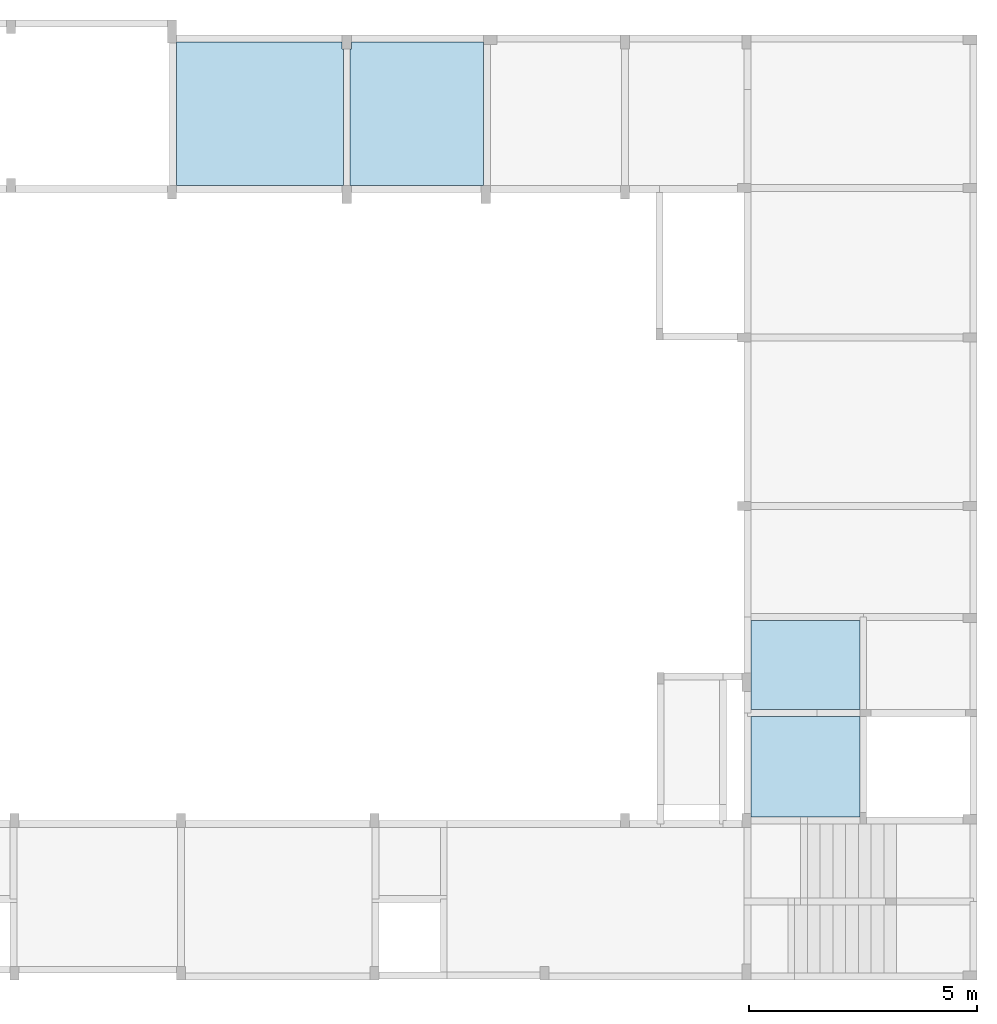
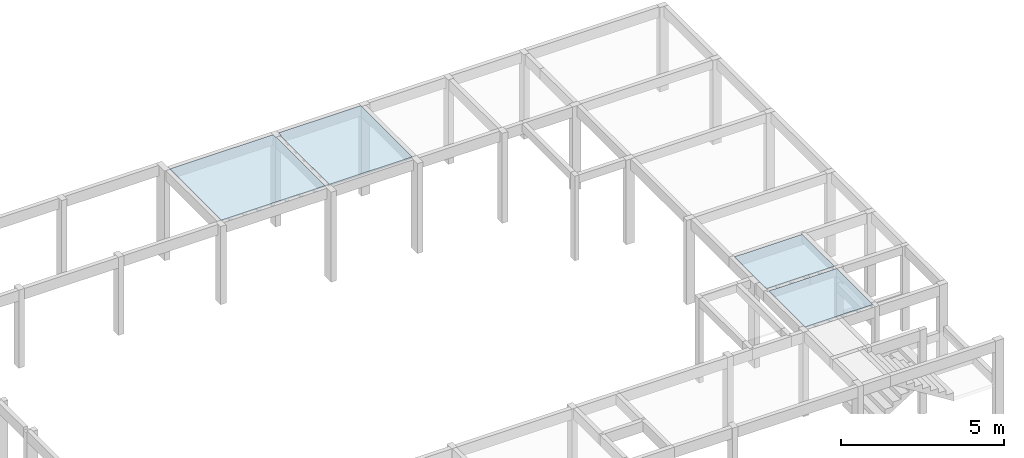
# One storey, part 7 of 11: 4 slabs.
"""IFC4 building model written with IfcOpenShell, lengths in centimetres."""

from ifc_helpers import new_model, si_unit, derived_unit, frame, origin_with_axes, place, context, project, spatial, polyline, outline, extrude, faceted_brep, material, element, save


model = new_model("IFC4")

# Units and contexts
model_context = context("Model", 3, precision=1e-05, world=origin_with_axes(), identifier="Body")
ifc_project = project(units=[si_unit("LENGTHUNIT", "METRE", prefix="CENTI"), si_unit("VOLUMEUNIT", "CUBIC_METRE"), si_unit("AREAUNIT", "SQUARE_METRE"), si_unit("POWERUNIT", "WATT"), si_unit("LUMINOUSFLUXUNIT", "LUMEN"), si_unit("ELECTRICCURRENTUNIT", "AMPERE"), si_unit("PRESSUREUNIT", "PASCAL", prefix="KILO"), si_unit("MASSUNIT", "GRAM", prefix="KILO"), si_unit("PLANEANGLEUNIT", "RADIAN"), derived_unit("VOLUMETRICFLOWRATEUNIT", [(si_unit("LENGTHUNIT", "METRE"), 3), (si_unit("TIMEUNIT", "SECOND"), -1)])], contexts=[model_context])

# Site, building, storey
site_placement = place(None, origin_with_axes())
site = spatial("IfcSite", under=ifc_project, at=site_placement)
building_placement = place(site_placement, frame((0.0, 0.0, -295.0)))
building = spatial("IfcBuilding", under=site, at=building_placement)
placement_1 = place(building_placement, origin_with_axes())
placement_2 = place(placement_1, frame((0.0, 0.0, 101.0), z_axis=(0.0, 0.0, 1.0), x_axis=(1.0, 0.0, 0.0)))
placement_3 = place(placement_2, frame((0.0, 0.0, 204.0), z_axis=(0.0, 0.0, 1.0), x_axis=(1.0, 0.0, 0.0)))
storey_placement = place(placement_3, frame((0.0, 0.0, 292.0), z_axis=(0.0, 0.0, 1.0), x_axis=(1.0, 0.0, 0.0)))
storey = spatial("IfcBuildingStorey", under=building, at=storey_placement, Name="PAVTO 01", CompositionType="ELEMENT", Elevation=302.0)

# Slabs
ifc_material = material(Name="Concreto")
slab_1_placement = place(storey_placement, frame((2442.0355, -5277.085, 0.0), z_axis=(0.0, 0.0, 1.0), x_axis=(1.0, 0.0, 0.0)))
element("IfcSlab", 1, at=slab_1_placement, inside=storey, material=ifc_material, Name="L101", PredefinedType="FLOOR", context=model_context, shape_type="SolidModel", body=[
    extrude(outline(polyline([(183.304, 142.534), (180.805, 142.534), (180.804, 157.534), (-183.304, 157.534), (-183.304, -157.534), (183.305, -157.534), (183.304, 142.534), (183.304, 142.534)])), frame((-0.0005, 0.0, -4.0), z_axis=(0.0, 0.0, 1.0), x_axis=(1.0, 0.0, 0.0)), (0.0, 0.0, 1.0), 4.0),
    faceted_brep([(-5.0005, -157.534, -12.0), (-5.0005, 157.534, -12.0), (4.9995, 157.534, -12.0), (4.9995, -157.534, -12.0), (4.9995, -157.534, -4.0), (4.9995, 157.534, -4.0), (-5.0005, 157.534, -4.0), (-5.0005, -157.534, -4.0)], [[[0, 1, 2, 3]], [[4, 5, 6, 7]], [[4, 3, 5]], [[3, 2, 5]], [[5, 2, 6]], [[2, 1, 6]], [[6, 1, 7]], [[1, 0, 7]], [[7, 0, 4]], [[0, 3, 4]]]),
    faceted_brep([(-6.5005, -157.534, -12.0), (-6.5005, 157.534, -12.0), (-5.0005, 157.534, -12.0), (-5.0005, -157.534, -12.0), (-5.0005, -157.534, -9.0), (-5.0005, 157.534, -9.0), (-6.5005, 157.534, -9.0), (-6.5005, -157.534, -9.0)], [[[0, 1, 2, 3]], [[4, 5, 6, 7]], [[4, 3, 5]], [[3, 2, 5]], [[5, 2, 6]], [[2, 1, 6]], [[6, 1, 7]], [[1, 0, 7]], [[7, 0, 4]], [[0, 3, 4]]]),
    faceted_brep([(4.9995, -157.534, -12.0), (4.9995, 157.534, -12.0), (6.4995, 157.534, -12.0), (6.4995, -157.534, -12.0), (6.4995, -157.534, -9.0), (6.4995, 157.534, -9.0), (4.9995, 157.534, -9.0), (4.9995, -157.534, -9.0)], [[[0, 1, 2, 3]], [[4, 5, 6, 7]], [[4, 3, 5]], [[3, 2, 5]], [[5, 2, 6]], [[2, 1, 6]], [[6, 1, 7]], [[1, 0, 7]], [[7, 0, 4]], [[0, 3, 4]]]),
    faceted_brep([(-55.0005, -157.534, -12.0), (-55.0005, 157.534, -12.0), (-45.0005, 157.534, -12.0), (-45.0005, -157.534, -12.0), (-45.0005, -157.534, -4.0), (-45.0005, 157.534, -4.0), (-55.0005, 157.534, -4.0), (-55.0005, -157.534, -4.0)], [[[0, 1, 2, 3]], [[4, 5, 6, 7]], [[4, 3, 5]], [[3, 2, 5]], [[5, 2, 6]], [[2, 1, 6]], [[6, 1, 7]], [[1, 0, 7]], [[7, 0, 4]], [[0, 3, 4]]]),
    faceted_brep([(-56.5005, -157.534, -12.0), (-56.5005, 157.534, -12.0), (-55.0005, 157.534, -12.0), (-55.0005, -157.534, -12.0), (-55.0005, -157.534, -9.0), (-55.0005, 157.534, -9.0), (-56.5005, 157.534, -9.0), (-56.5005, -157.534, -9.0)], [[[0, 1, 2, 3]], [[4, 5, 6, 7]], [[4, 3, 5]], [[3, 2, 5]], [[5, 2, 6]], [[2, 1, 6]], [[6, 1, 7]], [[1, 0, 7]], [[7, 0, 4]], [[0, 3, 4]]]),
    faceted_brep([(-45.0005, -157.534, -12.0), (-45.0005, 157.534, -12.0), (-43.5005, 157.534, -12.0), (-43.5005, -157.534, -12.0), (-43.5005, -157.534, -9.0), (-43.5005, 157.534, -9.0), (-45.0005, 157.534, -9.0), (-45.0005, -157.534, -9.0)], [[[0, 1, 2, 3]], [[4, 5, 6, 7]], [[4, 3, 5]], [[3, 2, 5]], [[5, 2, 6]], [[2, 1, 6]], [[6, 1, 7]], [[1, 0, 7]], [[7, 0, 4]], [[0, 3, 4]]]),
    faceted_brep([(-105.0005, -157.534, -12.0), (-105.0005, 157.534, -12.0), (-95.0005, 157.534, -12.0), (-95.0005, -157.534, -12.0), (-95.0005, -157.534, -4.0), (-95.0005, 157.534, -4.0), (-105.0005, 157.534, -4.0), (-105.0005, -157.534, -4.0)], [[[0, 1, 2, 3]], [[4, 5, 6, 7]], [[4, 3, 5]], [[3, 2, 5]], [[5, 2, 6]], [[2, 1, 6]], [[6, 1, 7]], [[1, 0, 7]], [[7, 0, 4]], [[0, 3, 4]]]),
    faceted_brep([(-106.5005, -157.534, -12.0), (-106.5005, 157.534, -12.0), (-105.0005, 157.534, -12.0), (-105.0005, -157.534, -12.0), (-105.0005, -157.534, -9.0), (-105.0005, 157.534, -9.0), (-106.5005, 157.534, -9.0), (-106.5005, -157.534, -9.0)], [[[0, 1, 2, 3]], [[4, 5, 6, 7]], [[4, 3, 5]], [[3, 2, 5]], [[5, 2, 6]], [[2, 1, 6]], [[6, 1, 7]], [[1, 0, 7]], [[7, 0, 4]], [[0, 3, 4]]]),
    faceted_brep([(-95.0005, -157.534, -12.0), (-95.0005, 157.534, -12.0), (-93.5005, 157.534, -12.0), (-93.5005, -157.534, -12.0), (-93.5005, -157.534, -9.0), (-93.5005, 157.534, -9.0), (-95.0005, 157.534, -9.0), (-95.0005, -157.534, -9.0)], [[[0, 1, 2, 3]], [[4, 5, 6, 7]], [[4, 3, 5]], [[3, 2, 5]], [[5, 2, 6]], [[2, 1, 6]], [[6, 1, 7]], [[1, 0, 7]], [[7, 0, 4]], [[0, 3, 4]]]),
    faceted_brep([(-155.0005, -157.534, -12.0), (-155.0005, 157.534, -12.0), (-145.0005, 157.534, -12.0), (-145.0005, -157.534, -12.0), (-145.0005, -157.534, -4.0), (-145.0005, 157.534, -4.0), (-155.0005, 157.534, -4.0), (-155.0005, -157.534, -4.0)], [[[0, 1, 2, 3]], [[4, 5, 6, 7]], [[4, 3, 5]], [[3, 2, 5]], [[5, 2, 6]], [[2, 1, 6]], [[6, 1, 7]], [[1, 0, 7]], [[7, 0, 4]], [[0, 3, 4]]]),
    faceted_brep([(-156.5005, -157.534, -12.0), (-156.5005, 157.534, -12.0), (-155.0005, 157.534, -12.0), (-155.0005, -157.534, -12.0), (-155.0005, -157.534, -9.0), (-155.0005, 157.534, -9.0), (-156.5005, 157.534, -9.0), (-156.5005, -157.534, -9.0)], [[[0, 1, 2, 3]], [[4, 5, 6, 7]], [[4, 3, 5]], [[3, 2, 5]], [[5, 2, 6]], [[2, 1, 6]], [[6, 1, 7]], [[1, 0, 7]], [[7, 0, 4]], [[0, 3, 4]]]),
    faceted_brep([(-145.0005, -157.534, -12.0), (-145.0005, 157.534, -12.0), (-143.5005, 157.534, -12.0), (-143.5005, -157.534, -12.0), (-143.5005, -157.534, -9.0), (-143.5005, 157.534, -9.0), (-145.0005, 157.534, -9.0), (-145.0005, -157.534, -9.0)], [[[0, 1, 2, 3]], [[4, 5, 6, 7]], [[4, 3, 5]], [[3, 2, 5]], [[5, 2, 6]], [[2, 1, 6]], [[6, 1, 7]], [[1, 0, 7]], [[7, 0, 4]], [[0, 3, 4]]]),
    faceted_brep([(44.9995, -157.534, -12.0), (44.9995, 157.534, -12.0), (54.9995, 157.534, -12.0), (54.9995, -157.534, -12.0), (54.9995, -157.534, -4.0), (54.9995, 157.534, -4.0), (44.9995, 157.534, -4.0), (44.9995, -157.534, -4.0)], [[[0, 1, 2, 3]], [[4, 5, 6, 7]], [[4, 3, 5]], [[3, 2, 5]], [[5, 2, 6]], [[2, 1, 6]], [[6, 1, 7]], [[1, 0, 7]], [[7, 0, 4]], [[0, 3, 4]]]),
    faceted_brep([(43.4995, -157.534, -12.0), (43.4995, 157.534, -12.0), (44.9995, 157.534, -12.0), (44.9995, -157.534, -12.0), (44.9995, -157.534, -9.0), (44.9995, 157.534, -9.0), (43.4995, 157.534, -9.0), (43.4995, -157.534, -9.0)], [[[0, 1, 2, 3]], [[4, 5, 6, 7]], [[4, 3, 5]], [[3, 2, 5]], [[5, 2, 6]], [[2, 1, 6]], [[6, 1, 7]], [[1, 0, 7]], [[7, 0, 4]], [[0, 3, 4]]]),
    faceted_brep([(54.9995, -157.534, -12.0), (54.9995, 157.534, -12.0), (56.4995, 157.534, -12.0), (56.4995, -157.534, -12.0), (56.4995, -157.534, -9.0), (56.4995, 157.534, -9.0), (54.9995, 157.534, -9.0), (54.9995, -157.534, -9.0)], [[[0, 1, 2, 3]], [[4, 5, 6, 7]], [[4, 3, 5]], [[3, 2, 5]], [[5, 2, 6]], [[2, 1, 6]], [[6, 1, 7]], [[1, 0, 7]], [[7, 0, 4]], [[0, 3, 4]]]),
    faceted_brep([(94.9995, -157.534, -12.0), (94.9995, 157.534, -12.0), (104.9995, 157.534, -12.0), (104.9995, -157.534, -12.0), (104.9995, -157.534, -4.0), (104.9995, 157.534, -4.0), (94.9995, 157.534, -4.0), (94.9995, -157.534, -4.0)], [[[0, 1, 2, 3]], [[4, 5, 6, 7]], [[4, 3, 5]], [[3, 2, 5]], [[5, 2, 6]], [[2, 1, 6]], [[6, 1, 7]], [[1, 0, 7]], [[7, 0, 4]], [[0, 3, 4]]]),
    faceted_brep([(93.4995, -157.534, -12.0), (93.4995, 157.534, -12.0), (94.9995, 157.534, -12.0), (94.9995, -157.534, -12.0), (94.9995, -157.534, -9.0), (94.9995, 157.534, -9.0), (93.4995, 157.534, -9.0), (93.4995, -157.534, -9.0)], [[[0, 1, 2, 3]], [[4, 5, 6, 7]], [[4, 3, 5]], [[3, 2, 5]], [[5, 2, 6]], [[2, 1, 6]], [[6, 1, 7]], [[1, 0, 7]], [[7, 0, 4]], [[0, 3, 4]]]),
    faceted_brep([(104.9995, -157.534, -12.0), (104.9995, 157.534, -12.0), (106.4995, 157.534, -12.0), (106.4995, -157.534, -12.0), (106.4995, -157.534, -9.0), (106.4995, 157.534, -9.0), (104.9995, 157.534, -9.0), (104.9995, -157.534, -9.0)], [[[0, 1, 2, 3]], [[4, 5, 6, 7]], [[4, 3, 5]], [[3, 2, 5]], [[5, 2, 6]], [[2, 1, 6]], [[6, 1, 7]], [[1, 0, 7]], [[7, 0, 4]], [[0, 3, 4]]]),
    faceted_brep([(144.9995, -157.534, -12.0), (144.9995, 157.534, -12.0), (154.9995, 157.534, -12.0), (154.9995, -157.534, -12.0), (154.9995, -157.534, -4.0), (154.9995, 157.534, -4.0), (144.9995, 157.534, -4.0), (144.9995, -157.534, -4.0)], [[[0, 1, 2, 3]], [[4, 5, 6, 7]], [[4, 3, 5]], [[3, 2, 5]], [[5, 2, 6]], [[2, 1, 6]], [[6, 1, 7]], [[1, 0, 7]], [[7, 0, 4]], [[0, 3, 4]]]),
    faceted_brep([(143.4995, -157.534, -12.0), (143.4995, 157.534, -12.0), (144.9995, 157.534, -12.0), (144.9995, -157.534, -12.0), (144.9995, -157.534, -9.0), (144.9995, 157.534, -9.0), (143.4995, 157.534, -9.0), (143.4995, -157.534, -9.0)], [[[0, 1, 2, 3]], [[4, 5, 6, 7]], [[4, 3, 5]], [[3, 2, 5]], [[5, 2, 6]], [[2, 1, 6]], [[6, 1, 7]], [[1, 0, 7]], [[7, 0, 4]], [[0, 3, 4]]]),
    faceted_brep([(154.9995, -157.534, -12.0), (154.9995, 157.534, -12.0), (156.4995, 157.534, -12.0), (156.4995, -157.534, -12.0), (156.4995, -157.534, -9.0), (156.4995, 157.534, -9.0), (154.9995, 157.534, -9.0), (154.9995, -157.534, -9.0)], [[[0, 1, 2, 3]], [[4, 5, 6, 7]], [[4, 3, 5]], [[3, 2, 5]], [[5, 2, 6]], [[2, 1, 6]], [[6, 1, 7]], [[1, 0, 7]], [[7, 0, 4]], [[0, 3, 4]]]),
])
slab_2_placement = place(storey_placement, frame((2786.81, -5277.0855, 0.0), z_axis=(0.0, 0.0, 1.0), x_axis=(1.0, 0.0, 0.0)))
element("IfcSlab", 2, at=slab_2_placement, inside=storey, material=ifc_material, Name="L102", PredefinedType="FLOOR", context=model_context, shape_type="SolidModel", body=[
    extrude(outline(polyline([(146.47, -157.535), (146.469, 157.534), (-143.97, 157.534), (-143.969, 142.534), (-146.47, 142.534), (-146.47, -157.534), (146.47, -157.535), (146.47, -157.535)])), frame((0.0, 0.0005, -4.0), z_axis=(0.0, 0.0, 1.0), x_axis=(1.0, 0.0, 0.0)), (0.0, 0.0, 1.0), 4.0),
    faceted_brep([(-146.47, -139.9995, -12.0), (146.4695, -139.9995, -12.0), (146.4695, -149.9995, -12.0), (-146.47, -149.9995, -12.0), (-146.47, -149.9995, -4.0), (146.4695, -149.9995, -4.0), (146.4695, -139.9995, -4.0), (-146.47, -139.9995, -4.0)], [[[0, 1, 2, 3]], [[4, 5, 6, 7]], [[4, 3, 5]], [[3, 2, 5]], [[5, 2, 6]], [[2, 1, 6]], [[6, 1, 7]], [[1, 0, 7]], [[7, 0, 4]], [[0, 3, 4]]]),
    faceted_brep([(-146.47, -138.4995, -12.0), (146.4695, -138.4995, -12.0), (146.4695, -139.9995, -12.0), (-146.47, -139.9995, -12.0), (-146.47, -139.9995, -9.0), (146.4695, -139.9995, -9.0), (146.4695, -138.4995, -9.0), (-146.47, -138.4995, -9.0)], [[[0, 1, 2, 3]], [[4, 5, 6, 7]], [[4, 3, 5]], [[3, 2, 5]], [[5, 2, 6]], [[2, 1, 6]], [[6, 1, 7]], [[1, 0, 7]], [[7, 0, 4]], [[0, 3, 4]]]),
    faceted_brep([(-146.47, -149.9995, -12.0), (146.4695, -149.9995, -12.0), (146.4695, -151.4995, -12.0), (-146.47, -151.4995, -12.0), (-146.47, -151.4995, -9.0), (146.4695, -151.4995, -9.0), (146.4695, -149.9995, -9.0), (-146.47, -149.9995, -9.0)], [[[0, 1, 2, 3]], [[4, 5, 6, 7]], [[4, 3, 5]], [[3, 2, 5]], [[5, 2, 6]], [[2, 1, 6]], [[6, 1, 7]], [[1, 0, 7]], [[7, 0, 4]], [[0, 3, 4]]]),
    faceted_brep([(-146.47, -89.9995, -12.0), (146.4695, -89.9995, -12.0), (146.4695, -99.9995, -12.0), (-146.47, -99.9995, -12.0), (-146.47, -99.9995, -4.0), (146.4695, -99.9995, -4.0), (146.4695, -89.9995, -4.0), (-146.47, -89.9995, -4.0)], [[[0, 1, 2, 3]], [[4, 5, 6, 7]], [[4, 3, 5]], [[3, 2, 5]], [[5, 2, 6]], [[2, 1, 6]], [[6, 1, 7]], [[1, 0, 7]], [[7, 0, 4]], [[0, 3, 4]]]),
    faceted_brep([(-146.47, -88.4995, -12.0), (146.4695, -88.4995, -12.0), (146.4695, -89.9995, -12.0), (-146.47, -89.9995, -12.0), (-146.47, -89.9995, -9.0), (146.4695, -89.9995, -9.0), (146.4695, -88.4995, -9.0), (-146.47, -88.4995, -9.0)], [[[0, 1, 2, 3]], [[4, 5, 6, 7]], [[4, 3, 5]], [[3, 2, 5]], [[5, 2, 6]], [[2, 1, 6]], [[6, 1, 7]], [[1, 0, 7]], [[7, 0, 4]], [[0, 3, 4]]]),
    faceted_brep([(-146.47, -99.9995, -12.0), (146.4695, -99.9995, -12.0), (146.4695, -101.4995, -12.0), (-146.47, -101.4995, -12.0), (-146.47, -101.4995, -9.0), (146.4695, -101.4995, -9.0), (146.4695, -99.9995, -9.0), (-146.47, -99.9995, -9.0)], [[[0, 1, 2, 3]], [[4, 5, 6, 7]], [[4, 3, 5]], [[3, 2, 5]], [[5, 2, 6]], [[2, 1, 6]], [[6, 1, 7]], [[1, 0, 7]], [[7, 0, 4]], [[0, 3, 4]]]),
    faceted_brep([(-146.47, -39.9995, -12.0), (146.4695, -39.9995, -12.0), (146.4695, -49.9995, -12.0), (-146.47, -49.9995, -12.0), (-146.47, -49.9995, -4.0), (146.4695, -49.9995, -4.0), (146.4695, -39.9995, -4.0), (-146.47, -39.9995, -4.0)], [[[0, 1, 2, 3]], [[4, 5, 6, 7]], [[4, 3, 5]], [[3, 2, 5]], [[5, 2, 6]], [[2, 1, 6]], [[6, 1, 7]], [[1, 0, 7]], [[7, 0, 4]], [[0, 3, 4]]]),
    faceted_brep([(-146.47, -38.4995, -12.0), (146.4695, -38.4995, -12.0), (146.4695, -39.9995, -12.0), (-146.47, -39.9995, -12.0), (-146.47, -39.9995, -9.0), (146.4695, -39.9995, -9.0), (146.4695, -38.4995, -9.0), (-146.47, -38.4995, -9.0)], [[[0, 1, 2, 3]], [[4, 5, 6, 7]], [[4, 3, 5]], [[3, 2, 5]], [[5, 2, 6]], [[2, 1, 6]], [[6, 1, 7]], [[1, 0, 7]], [[7, 0, 4]], [[0, 3, 4]]]),
    faceted_brep([(-146.47, -49.9995, -12.0), (146.4695, -49.9995, -12.0), (146.4695, -51.4995, -12.0), (-146.47, -51.4995, -12.0), (-146.47, -51.4995, -9.0), (146.4695, -51.4995, -9.0), (146.4695, -49.9995, -9.0), (-146.47, -49.9995, -9.0)], [[[0, 1, 2, 3]], [[4, 5, 6, 7]], [[4, 3, 5]], [[3, 2, 5]], [[5, 2, 6]], [[2, 1, 6]], [[6, 1, 7]], [[1, 0, 7]], [[7, 0, 4]], [[0, 3, 4]]]),
    faceted_brep([(-146.47, 10.0005, -12.0), (146.4695, 10.0005, -12.0), (146.4695, 0.0005, -12.0), (-146.47, 0.0005, -12.0), (-146.47, 0.0005, -4.0), (146.4695, 0.0005, -4.0), (146.4695, 10.0005, -4.0), (-146.47, 10.0005, -4.0)], [[[0, 1, 2, 3]], [[4, 5, 6, 7]], [[4, 3, 5]], [[3, 2, 5]], [[5, 2, 6]], [[2, 1, 6]], [[6, 1, 7]], [[1, 0, 7]], [[7, 0, 4]], [[0, 3, 4]]]),
    faceted_brep([(-146.47, 11.5005, -12.0), (146.4695, 11.5005, -12.0), (146.4695, 10.0005, -12.0), (-146.47, 10.0005, -12.0), (-146.47, 10.0005, -9.0), (146.4695, 10.0005, -9.0), (146.4695, 11.5005, -9.0), (-146.47, 11.5005, -9.0)], [[[0, 1, 2, 3]], [[4, 5, 6, 7]], [[4, 3, 5]], [[3, 2, 5]], [[5, 2, 6]], [[2, 1, 6]], [[6, 1, 7]], [[1, 0, 7]], [[7, 0, 4]], [[0, 3, 4]]]),
    faceted_brep([(-146.47, 0.0005, -12.0), (146.4695, 0.0005, -12.0), (146.4695, -1.4995, -12.0), (-146.47, -1.4995, -12.0), (-146.47, -1.4995, -9.0), (146.4695, -1.4995, -9.0), (146.4695, 0.0005, -9.0), (-146.47, 0.0005, -9.0)], [[[0, 1, 2, 3]], [[4, 5, 6, 7]], [[4, 3, 5]], [[3, 2, 5]], [[5, 2, 6]], [[2, 1, 6]], [[6, 1, 7]], [[1, 0, 7]], [[7, 0, 4]], [[0, 3, 4]]]),
    faceted_brep([(-146.47, 60.0005, -12.0), (146.4695, 60.0005, -12.0), (146.4695, 50.0005, -12.0), (-146.47, 50.0005, -12.0), (-146.47, 50.0005, -4.0), (146.4695, 50.0005, -4.0), (146.4695, 60.0005, -4.0), (-146.47, 60.0005, -4.0)], [[[0, 1, 2, 3]], [[4, 5, 6, 7]], [[4, 3, 5]], [[3, 2, 5]], [[5, 2, 6]], [[2, 1, 6]], [[6, 1, 7]], [[1, 0, 7]], [[7, 0, 4]], [[0, 3, 4]]]),
    faceted_brep([(-146.47, 61.5005, -12.0), (146.4695, 61.5005, -12.0), (146.4695, 60.0005, -12.0), (-146.47, 60.0005, -12.0), (-146.47, 60.0005, -9.0), (146.4695, 60.0005, -9.0), (146.4695, 61.5005, -9.0), (-146.47, 61.5005, -9.0)], [[[0, 1, 2, 3]], [[4, 5, 6, 7]], [[4, 3, 5]], [[3, 2, 5]], [[5, 2, 6]], [[2, 1, 6]], [[6, 1, 7]], [[1, 0, 7]], [[7, 0, 4]], [[0, 3, 4]]]),
    faceted_brep([(-146.47, 50.0005, -12.0), (146.4695, 50.0005, -12.0), (146.4695, 48.5005, -12.0), (-146.47, 48.5005, -12.0), (-146.47, 48.5005, -9.0), (146.4695, 48.5005, -9.0), (146.4695, 50.0005, -9.0), (-146.47, 50.0005, -9.0)], [[[0, 1, 2, 3]], [[4, 5, 6, 7]], [[4, 3, 5]], [[3, 2, 5]], [[5, 2, 6]], [[2, 1, 6]], [[6, 1, 7]], [[1, 0, 7]], [[7, 0, 4]], [[0, 3, 4]]]),
    faceted_brep([(-146.47, 110.0005, -12.0), (146.4695, 110.0005, -12.0), (146.4695, 100.0005, -12.0), (-146.47, 100.0005, -12.0), (-146.47, 100.0005, -4.0), (146.4695, 100.0005, -4.0), (146.4695, 110.0005, -4.0), (-146.47, 110.0005, -4.0)], [[[0, 1, 2, 3]], [[4, 5, 6, 7]], [[4, 3, 5]], [[3, 2, 5]], [[5, 2, 6]], [[2, 1, 6]], [[6, 1, 7]], [[1, 0, 7]], [[7, 0, 4]], [[0, 3, 4]]]),
    faceted_brep([(-146.47, 111.5005, -12.0), (146.4695, 111.5005, -12.0), (146.4695, 110.0005, -12.0), (-146.47, 110.0005, -12.0), (-146.47, 110.0005, -9.0), (146.4695, 110.0005, -9.0), (146.4695, 111.5005, -9.0), (-146.47, 111.5005, -9.0)], [[[0, 1, 2, 3]], [[4, 5, 6, 7]], [[4, 3, 5]], [[3, 2, 5]], [[5, 2, 6]], [[2, 1, 6]], [[6, 1, 7]], [[1, 0, 7]], [[7, 0, 4]], [[0, 3, 4]]]),
    faceted_brep([(-146.47, 100.0005, -12.0), (146.4695, 100.0005, -12.0), (146.4695, 98.5005, -12.0), (-146.47, 98.5005, -12.0), (-146.47, 98.5005, -9.0), (146.4695, 98.5005, -9.0), (146.4695, 100.0005, -9.0), (-146.47, 100.0005, -9.0)], [[[0, 1, 2, 3]], [[4, 5, 6, 7]], [[4, 3, 5]], [[3, 2, 5]], [[5, 2, 6]], [[2, 1, 6]], [[6, 1, 7]], [[1, 0, 7]], [[7, 0, 4]], [[0, 3, 4]]]),
    faceted_brep([(-143.9695, 157.5345, -12.0), (146.4690080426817, 157.5345, -12.0), (146.4695, 150.0005, -12.0), (-143.9695, 150.0005, -12.0), (-143.9695, 150.0005, -4.0), (146.4695, 150.0005, -4.0), (146.4690080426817, 157.5345, -4.0), (-143.9695, 157.5345, -4.0)], [[[0, 1, 2, 3]], [[4, 5, 6, 7]], [[4, 3, 5]], [[3, 2, 5]], [[5, 2, 6]], [[2, 1, 6]], [[6, 1, 7]], [[1, 0, 7]], [[7, 0, 4]], [[0, 3, 4]]]),
    faceted_brep([(-143.9695, 150.0005, -12.0), (146.4695, 150.0005, -12.0), (146.4695, 148.5005, -12.0), (-143.9695, 148.5005, -12.0), (-143.9695, 148.5005, -9.0), (146.4695, 148.5005, -9.0), (146.4695, 150.0005, -9.0), (-143.9695, 150.0005, -9.0)], [[[0, 1, 2, 3]], [[4, 5, 6, 7]], [[4, 3, 5]], [[3, 2, 5]], [[5, 2, 6]], [[2, 1, 6]], [[6, 1, 7]], [[1, 0, 7]], [[7, 0, 4]], [[0, 3, 4]]]),
])
slab_3_placement = place(storey_placement, frame((3640.2305, -6487.48, 0.0), z_axis=(0.0, 0.0, 1.0), x_axis=(1.0, 0.0, 0.0)))
element("IfcSlab", 3, at=slab_3_placement, inside=storey, material=ifc_material, Name="L109", PredefinedType="FLOOR", context=model_context, shape_type="SolidModel", body=[
    extrude(outline(polyline([(119.499, 97.83), (-119.499, 97.829), (-119.499, -97.829), (119.5, -97.83), (119.499, 97.83), (119.499, 97.83)])), frame((-0.0005, 0.0, -4.0), z_axis=(0.0, 0.0, 1.0), x_axis=(1.0, 0.0, 0.0)), (0.0, 0.0, 1.0), 4.0),
    faceted_brep([(16.0095, -97.82950000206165, -12.0), (16.0095, 97.8295, -12.0), (26.0095, 97.8295, -12.0), (26.0095, -97.82950000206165, -12.0), (26.0095, -97.82950000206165, -4.0), (26.0095, 97.8295, -4.0), (16.0095, 97.8295, -4.0), (16.0095, -97.82950000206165, -4.0)], [[[0, 1, 2, 3]], [[4, 5, 6, 7]], [[4, 3, 5]], [[3, 2, 5]], [[5, 2, 6]], [[2, 1, 6]], [[6, 1, 7]], [[1, 0, 7]], [[7, 0, 4]], [[0, 3, 4]]]),
    faceted_brep([(14.5095, -97.82950000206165, -12.0), (14.5095, 97.8295, -12.0), (16.0095, 97.8295, -12.0), (16.0095, -97.82950000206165, -12.0), (16.0095, -97.82950000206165, -9.0), (16.0095, 97.8295, -9.0), (14.5095, 97.8295, -9.0), (14.5095, -97.82950000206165, -9.0)], [[[0, 1, 2, 3]], [[4, 5, 6, 7]], [[4, 3, 5]], [[3, 2, 5]], [[5, 2, 6]], [[2, 1, 6]], [[6, 1, 7]], [[1, 0, 7]], [[7, 0, 4]], [[0, 3, 4]]]),
    faceted_brep([(26.0095, -97.82950000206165, -12.0), (26.0095, 97.8295, -12.0), (27.5095, 97.8295, -12.0), (27.5095, -97.82950000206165, -12.0), (27.5095, -97.82950000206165, -9.0), (27.5095, 97.8295, -9.0), (26.0095, 97.8295, -9.0), (26.0095, -97.82950000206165, -9.0)], [[[0, 1, 2, 3]], [[4, 5, 6, 7]], [[4, 3, 5]], [[3, 2, 5]], [[5, 2, 6]], [[2, 1, 6]], [[6, 1, 7]], [[1, 0, 7]], [[7, 0, 4]], [[0, 3, 4]]]),
    faceted_brep([(-33.9905, -97.82950000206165, -12.0), (-33.9905, 97.8295, -12.0), (-23.9905, 97.8295, -12.0), (-23.9905, -97.82950000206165, -12.0), (-23.9905, -97.82950000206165, -4.0), (-23.9905, 97.8295, -4.0), (-33.9905, 97.8295, -4.0), (-33.9905, -97.82950000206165, -4.0)], [[[0, 1, 2, 3]], [[4, 5, 6, 7]], [[4, 3, 5]], [[3, 2, 5]], [[5, 2, 6]], [[2, 1, 6]], [[6, 1, 7]], [[1, 0, 7]], [[7, 0, 4]], [[0, 3, 4]]]),
    faceted_brep([(-35.4905, -97.82950000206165, -12.0), (-35.4905, 97.8295, -12.0), (-33.9905, 97.8295, -12.0), (-33.9905, -97.82950000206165, -12.0), (-33.9905, -97.82950000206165, -9.0), (-33.9905, 97.8295, -9.0), (-35.4905, 97.8295, -9.0), (-35.4905, -97.82950000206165, -9.0)], [[[0, 1, 2, 3]], [[4, 5, 6, 7]], [[4, 3, 5]], [[3, 2, 5]], [[5, 2, 6]], [[2, 1, 6]], [[6, 1, 7]], [[1, 0, 7]], [[7, 0, 4]], [[0, 3, 4]]]),
    faceted_brep([(-23.9905, -97.82950000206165, -12.0), (-23.9905, 97.8295, -12.0), (-22.4905, 97.8295, -12.0), (-22.4905, -97.82950000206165, -12.0), (-22.4905, -97.82950000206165, -9.0), (-22.4905, 97.8295, -9.0), (-23.9905, 97.8295, -9.0), (-23.9905, -97.82950000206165, -9.0)], [[[0, 1, 2, 3]], [[4, 5, 6, 7]], [[4, 3, 5]], [[3, 2, 5]], [[5, 2, 6]], [[2, 1, 6]], [[6, 1, 7]], [[1, 0, 7]], [[7, 0, 4]], [[0, 3, 4]]]),
    faceted_brep([(-83.9905, -97.82950000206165, -12.0), (-83.9905, 97.8295, -12.0), (-73.9905, 97.8295, -12.0), (-73.9905, -97.82950000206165, -12.0), (-73.9905, -97.82950000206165, -4.0), (-73.9905, 97.8295, -4.0), (-83.9905, 97.8295, -4.0), (-83.9905, -97.82950000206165, -4.0)], [[[0, 1, 2, 3]], [[4, 5, 6, 7]], [[4, 3, 5]], [[3, 2, 5]], [[5, 2, 6]], [[2, 1, 6]], [[6, 1, 7]], [[1, 0, 7]], [[7, 0, 4]], [[0, 3, 4]]]),
    faceted_brep([(-85.4905, -97.82950000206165, -12.0), (-85.4905, 97.8295, -12.0), (-83.9905, 97.8295, -12.0), (-83.9905, -97.82950000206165, -12.0), (-83.9905, -97.82950000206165, -9.0), (-83.9905, 97.8295, -9.0), (-85.4905, 97.8295, -9.0), (-85.4905, -97.82950000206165, -9.0)], [[[0, 1, 2, 3]], [[4, 5, 6, 7]], [[4, 3, 5]], [[3, 2, 5]], [[5, 2, 6]], [[2, 1, 6]], [[6, 1, 7]], [[1, 0, 7]], [[7, 0, 4]], [[0, 3, 4]]]),
    faceted_brep([(-73.9905, -97.82950000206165, -12.0), (-73.9905, 97.8295, -12.0), (-72.4905, 97.8295, -12.0), (-72.4905, -97.82950000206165, -12.0), (-72.4905, -97.82950000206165, -9.0), (-72.4905, 97.8295, -9.0), (-73.9905, 97.8295, -9.0), (-73.9905, -97.82950000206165, -9.0)], [[[0, 1, 2, 3]], [[4, 5, 6, 7]], [[4, 3, 5]], [[3, 2, 5]], [[5, 2, 6]], [[2, 1, 6]], [[6, 1, 7]], [[1, 0, 7]], [[7, 0, 4]], [[0, 3, 4]]]),
    faceted_brep([(66.0095, -97.82950000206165, -12.0), (66.0095, 97.8295, -12.0), (76.0095, 97.8295, -12.0), (76.0095, -97.82950000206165, -12.0), (76.0095, -97.82950000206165, -4.0), (76.0095, 97.8295, -4.0), (66.0095, 97.8295, -4.0), (66.0095, -97.82950000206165, -4.0)], [[[0, 1, 2, 3]], [[4, 5, 6, 7]], [[4, 3, 5]], [[3, 2, 5]], [[5, 2, 6]], [[2, 1, 6]], [[6, 1, 7]], [[1, 0, 7]], [[7, 0, 4]], [[0, 3, 4]]]),
    faceted_brep([(64.5095, -97.82950000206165, -12.0), (64.5095, 97.8295, -12.0), (66.0095, 97.8295, -12.0), (66.0095, -97.82950000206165, -12.0), (66.0095, -97.82950000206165, -9.0), (66.0095, 97.8295, -9.0), (64.5095, 97.8295, -9.0), (64.5095, -97.82950000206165, -9.0)], [[[0, 1, 2, 3]], [[4, 5, 6, 7]], [[4, 3, 5]], [[3, 2, 5]], [[5, 2, 6]], [[2, 1, 6]], [[6, 1, 7]], [[1, 0, 7]], [[7, 0, 4]], [[0, 3, 4]]]),
    faceted_brep([(76.0095, -97.82950000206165, -12.0), (76.0095, 97.8295, -12.0), (77.5095, 97.8295, -12.0), (77.5095, -97.82950000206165, -12.0), (77.5095, -97.82950000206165, -9.0), (77.5095, 97.8295, -9.0), (76.0095, 97.8295, -9.0), (76.0095, -97.82950000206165, -9.0)], [[[0, 1, 2, 3]], [[4, 5, 6, 7]], [[4, 3, 5]], [[3, 2, 5]], [[5, 2, 6]], [[2, 1, 6]], [[6, 1, 7]], [[1, 0, 7]], [[7, 0, 4]], [[0, 3, 4]]]),
    faceted_brep([(116.0095, -97.82950000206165, -12.0), (116.0095, 97.8295, -12.0), (119.499, 97.82998539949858, -12.0), (119.499, -97.82998539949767, -12.0), (119.499, -97.82998539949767, -4.0), (119.499, 97.82998539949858, -4.0), (116.0095, 97.8295, -4.0), (116.0095, -97.82950000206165, -4.0)], [[[0, 1, 2, 3]], [[4, 5, 6, 7]], [[4, 3, 5]], [[3, 2, 5]], [[5, 2, 6]], [[2, 1, 6]], [[6, 1, 7]], [[1, 0, 7]], [[7, 0, 4]], [[0, 3, 4]]]),
    faceted_brep([(114.5095, -97.82950000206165, -12.0), (114.5095, 97.8295, -12.0), (116.0095, 97.8295, -12.0), (116.0095, -97.82950000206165, -12.0), (116.0095, -97.82950000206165, -9.0), (116.0095, 97.8295, -9.0), (114.5095, 97.8295, -9.0), (114.5095, -97.82950000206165, -9.0)], [[[0, 1, 2, 3]], [[4, 5, 6, 7]], [[4, 3, 5]], [[3, 2, 5]], [[5, 2, 6]], [[2, 1, 6]], [[6, 1, 7]], [[1, 0, 7]], [[7, 0, 4]], [[0, 3, 4]]]),
])
slab_4_placement = place(storey_placement, frame((3640.23, -6710.8, 0.0), z_axis=(0.0, 0.0, 1.0), x_axis=(1.0, 0.0, 0.0)))
element("IfcSlab", 4, at=slab_4_placement, inside=storey, material=ifc_material, Name="L112", PredefinedType="FLOOR", context=model_context, shape_type="SolidModel", body=[
    extrude(outline(polyline([(119.5, 110.489), (-119.5, 110.489), (-119.5, -110.489), (119.5, -110.489), (119.5, 110.489), (119.5, 110.489)])), frame((0.0, 0.0, -4.0), z_axis=(0.0, 0.0, 1.0), x_axis=(1.0, 0.0, 0.0)), (0.0, 0.0, 1.0), 4.0),
    faceted_brep([(16.01, -110.489, -12.0), (16.01, 110.489, -12.0), (26.01, 110.489, -12.0), (26.01, -110.489, -12.0), (26.01, -110.489, -4.0), (26.01, 110.489, -4.0), (16.01, 110.489, -4.0), (16.01, -110.489, -4.0)], [[[0, 1, 2, 3]], [[4, 5, 6, 7]], [[4, 3, 5]], [[3, 2, 5]], [[5, 2, 6]], [[2, 1, 6]], [[6, 1, 7]], [[1, 0, 7]], [[7, 0, 4]], [[0, 3, 4]]]),
    faceted_brep([(14.51, -110.489, -12.0), (14.51, 110.489, -12.0), (16.01, 110.489, -12.0), (16.01, -110.489, -12.0), (16.01, -110.489, -9.0), (16.01, 110.489, -9.0), (14.51, 110.489, -9.0), (14.51, -110.489, -9.0)], [[[0, 1, 2, 3]], [[4, 5, 6, 7]], [[4, 3, 5]], [[3, 2, 5]], [[5, 2, 6]], [[2, 1, 6]], [[6, 1, 7]], [[1, 0, 7]], [[7, 0, 4]], [[0, 3, 4]]]),
    faceted_brep([(26.01, -110.489, -12.0), (26.01, 110.489, -12.0), (27.51, 110.489, -12.0), (27.51, -110.489, -12.0), (27.51, -110.489, -9.0), (27.51, 110.489, -9.0), (26.01, 110.489, -9.0), (26.01, -110.489, -9.0)], [[[0, 1, 2, 3]], [[4, 5, 6, 7]], [[4, 3, 5]], [[3, 2, 5]], [[5, 2, 6]], [[2, 1, 6]], [[6, 1, 7]], [[1, 0, 7]], [[7, 0, 4]], [[0, 3, 4]]]),
    faceted_brep([(-33.99, -110.489, -12.0), (-33.99, 110.489, -12.0), (-23.99, 110.489, -12.0), (-23.99, -110.489, -12.0), (-23.99, -110.489, -4.0), (-23.99, 110.489, -4.0), (-33.99, 110.489, -4.0), (-33.99, -110.489, -4.0)], [[[0, 1, 2, 3]], [[4, 5, 6, 7]], [[4, 3, 5]], [[3, 2, 5]], [[5, 2, 6]], [[2, 1, 6]], [[6, 1, 7]], [[1, 0, 7]], [[7, 0, 4]], [[0, 3, 4]]]),
    faceted_brep([(-35.49, -110.489, -12.0), (-35.49, 110.489, -12.0), (-33.99, 110.489, -12.0), (-33.99, -110.489, -12.0), (-33.99, -110.489, -9.0), (-33.99, 110.489, -9.0), (-35.49, 110.489, -9.0), (-35.49, -110.489, -9.0)], [[[0, 1, 2, 3]], [[4, 5, 6, 7]], [[4, 3, 5]], [[3, 2, 5]], [[5, 2, 6]], [[2, 1, 6]], [[6, 1, 7]], [[1, 0, 7]], [[7, 0, 4]], [[0, 3, 4]]]),
    faceted_brep([(-23.99, -110.489, -12.0), (-23.99, 110.489, -12.0), (-22.49, 110.489, -12.0), (-22.49, -110.489, -12.0), (-22.49, -110.489, -9.0), (-22.49, 110.489, -9.0), (-23.99, 110.489, -9.0), (-23.99, -110.489, -9.0)], [[[0, 1, 2, 3]], [[4, 5, 6, 7]], [[4, 3, 5]], [[3, 2, 5]], [[5, 2, 6]], [[2, 1, 6]], [[6, 1, 7]], [[1, 0, 7]], [[7, 0, 4]], [[0, 3, 4]]]),
    faceted_brep([(-83.99, -110.489, -12.0), (-83.99, 110.489, -12.0), (-73.99, 110.489, -12.0), (-73.99, -110.489, -12.0), (-73.99, -110.489, -4.0), (-73.99, 110.489, -4.0), (-83.99, 110.489, -4.0), (-83.99, -110.489, -4.0)], [[[0, 1, 2, 3]], [[4, 5, 6, 7]], [[4, 3, 5]], [[3, 2, 5]], [[5, 2, 6]], [[2, 1, 6]], [[6, 1, 7]], [[1, 0, 7]], [[7, 0, 4]], [[0, 3, 4]]]),
    faceted_brep([(-85.49, -110.489, -12.0), (-85.49, 110.489, -12.0), (-83.99, 110.489, -12.0), (-83.99, -110.489, -12.0), (-83.99, -110.489, -9.0), (-83.99, 110.489, -9.0), (-85.49, 110.489, -9.0), (-85.49, -110.489, -9.0)], [[[0, 1, 2, 3]], [[4, 5, 6, 7]], [[4, 3, 5]], [[3, 2, 5]], [[5, 2, 6]], [[2, 1, 6]], [[6, 1, 7]], [[1, 0, 7]], [[7, 0, 4]], [[0, 3, 4]]]),
    faceted_brep([(-73.99, -110.489, -12.0), (-73.99, 110.489, -12.0), (-72.49, 110.489, -12.0), (-72.49, -110.489, -12.0), (-72.49, -110.489, -9.0), (-72.49, 110.489, -9.0), (-73.99, 110.489, -9.0), (-73.99, -110.489, -9.0)], [[[0, 1, 2, 3]], [[4, 5, 6, 7]], [[4, 3, 5]], [[3, 2, 5]], [[5, 2, 6]], [[2, 1, 6]], [[6, 1, 7]], [[1, 0, 7]], [[7, 0, 4]], [[0, 3, 4]]]),
    faceted_brep([(66.01, -110.489, -12.0), (66.01, 110.489, -12.0), (76.01, 110.489, -12.0), (76.01, -110.489, -12.0), (76.01, -110.489, -4.0), (76.01, 110.489, -4.0), (66.01, 110.489, -4.0), (66.01, -110.489, -4.0)], [[[0, 1, 2, 3]], [[4, 5, 6, 7]], [[4, 3, 5]], [[3, 2, 5]], [[5, 2, 6]], [[2, 1, 6]], [[6, 1, 7]], [[1, 0, 7]], [[7, 0, 4]], [[0, 3, 4]]]),
    faceted_brep([(64.51, -110.489, -12.0), (64.51, 110.489, -12.0), (66.01, 110.489, -12.0), (66.01, -110.489, -12.0), (66.01, -110.489, -9.0), (66.01, 110.489, -9.0), (64.51, 110.489, -9.0), (64.51, -110.489, -9.0)], [[[0, 1, 2, 3]], [[4, 5, 6, 7]], [[4, 3, 5]], [[3, 2, 5]], [[5, 2, 6]], [[2, 1, 6]], [[6, 1, 7]], [[1, 0, 7]], [[7, 0, 4]], [[0, 3, 4]]]),
    faceted_brep([(76.01, -110.489, -12.0), (76.01, 110.489, -12.0), (77.51, 110.489, -12.0), (77.51, -110.489, -12.0), (77.51, -110.489, -9.0), (77.51, 110.489, -9.0), (76.01, 110.489, -9.0), (76.01, -110.489, -9.0)], [[[0, 1, 2, 3]], [[4, 5, 6, 7]], [[4, 3, 5]], [[3, 2, 5]], [[5, 2, 6]], [[2, 1, 6]], [[6, 1, 7]], [[1, 0, 7]], [[7, 0, 4]], [[0, 3, 4]]]),
    faceted_brep([(116.01, -110.489, -12.0), (116.01, 110.489, -12.0), (119.5, 110.489, -12.0), (119.5, -110.489, -12.0), (119.5, -110.489, -4.0), (119.5, 110.489, -4.0), (116.01, 110.489, -4.0), (116.01, -110.489, -4.0)], [[[0, 1, 2, 3]], [[4, 5, 6, 7]], [[4, 3, 5]], [[3, 2, 5]], [[5, 2, 6]], [[2, 1, 6]], [[6, 1, 7]], [[1, 0, 7]], [[7, 0, 4]], [[0, 3, 4]]]),
    faceted_brep([(114.51, -110.489, -12.0), (114.51, 110.489, -12.0), (116.01, 110.489, -12.0), (116.01, -110.489, -12.0), (116.01, -110.489, -9.0), (116.01, 110.489, -9.0), (114.51, 110.489, -9.0), (114.51, -110.489, -9.0)], [[[0, 1, 2, 3]], [[4, 5, 6, 7]], [[4, 3, 5]], [[3, 2, 5]], [[5, 2, 6]], [[2, 1, 6]], [[6, 1, 7]], [[1, 0, 7]], [[7, 0, 4]], [[0, 3, 4]]]),
])

save(model, "model.ifc")
